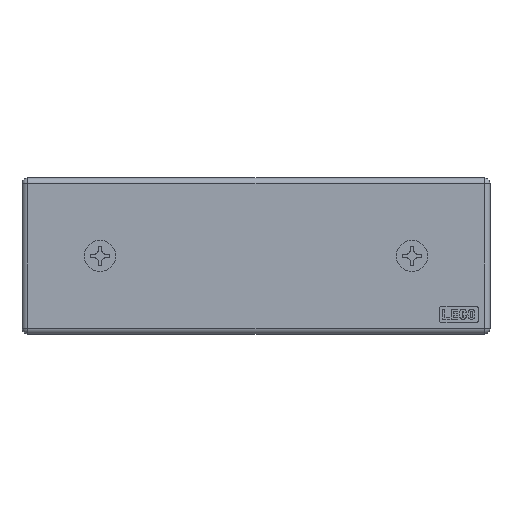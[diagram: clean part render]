
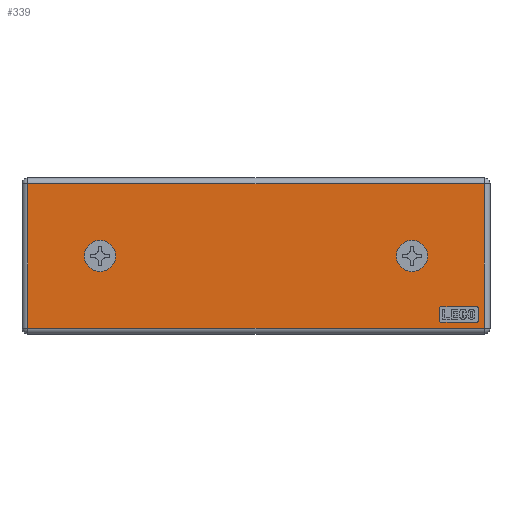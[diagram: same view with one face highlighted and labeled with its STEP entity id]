
A CAD part, top view. The second image highlights one B-rep face of the part: STEP entity #339.
In plain terms, the highlighted planar face has unit normal (0, 0, 1).
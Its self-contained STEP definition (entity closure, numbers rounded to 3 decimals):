
#339=ADVANCED_FACE('',(#925,#926,#927,#928),#929,.F.);
#925=FACE_BOUND('',#1826,.T.);
#926=FACE_BOUND('',#1827,.T.);
#927=FACE_BOUND('',#1828,.T.);
#928=FACE_OUTER_BOUND('',#1829,.T.);
#929=PLANE('',#1830);
#1826=EDGE_LOOP('',(#4500,#4501,#4502,#4503,#4504,#4505,#4506,#4507));
#1827=EDGE_LOOP('',(#4508));
#1828=EDGE_LOOP('',(#4509));
#1829=EDGE_LOOP('',(#4510,#4511,#4512,#4513));
#1830=AXIS2_PLACEMENT_3D('',#4514,#4515,#4516);
#4500=ORIENTED_EDGE('',*,*,#6816,.F.);
#4501=ORIENTED_EDGE('',*,*,#6817,.F.);
#4502=ORIENTED_EDGE('',*,*,#6740,.F.);
#4503=ORIENTED_EDGE('',*,*,#6735,.F.);
#4504=ORIENTED_EDGE('',*,*,#6818,.F.);
#4505=ORIENTED_EDGE('',*,*,#6744,.F.);
#4506=ORIENTED_EDGE('',*,*,#6819,.F.);
#4507=ORIENTED_EDGE('',*,*,#6820,.F.);
#4508=ORIENTED_EDGE('',*,*,#6821,.T.);
#4509=ORIENTED_EDGE('',*,*,#6822,.T.);
#4510=ORIENTED_EDGE('',*,*,#6823,.F.);
#4511=ORIENTED_EDGE('',*,*,#6824,.T.);
#4512=ORIENTED_EDGE('',*,*,#6825,.T.);
#4513=ORIENTED_EDGE('',*,*,#6826,.F.);
#4514=CARTESIAN_POINT('',(-4.899,1.5,3.));
#4515=DIRECTION('',(0.0,0.0,-1.0));
#4516=DIRECTION('',(-1.0,0.0,0.0));
#6735=EDGE_CURVE('',#7726,#7727,#7728,.T.);
#6740=EDGE_CURVE('',#7727,#7735,#7736,.T.);
#6744=EDGE_CURVE('',#7741,#7742,#7743,.T.);
#6816=EDGE_CURVE('',#7867,#7868,#7869,.T.);
#6817=EDGE_CURVE('',#7735,#7867,#7870,.T.);
#6818=EDGE_CURVE('',#7742,#7726,#7871,.T.);
#6819=EDGE_CURVE('',#7872,#7741,#7873,.T.);
#6820=EDGE_CURVE('',#7868,#7872,#7874,.T.);
#6821=EDGE_CURVE('',#7875,#7875,#7876,.T.);
#6822=EDGE_CURVE('',#7877,#7877,#7878,.T.);
#6823=EDGE_CURVE('',#7879,#7880,#7881,.T.);
#6824=EDGE_CURVE('',#7879,#7882,#7883,.T.);
#6825=EDGE_CURVE('',#7882,#7884,#7885,.T.);
#6826=EDGE_CURVE('',#7880,#7884,#7886,.T.);
#7726=VERTEX_POINT('',#9131);
#7727=VERTEX_POINT('',#9132);
#7728=CIRCLE('',#9133,0.4);
#7735=VERTEX_POINT('',#9142);
#7736=LINE('',#9143,#9144);
#7741=VERTEX_POINT('',#9151);
#7742=VERTEX_POINT('',#9152);
#7743=CIRCLE('',#9153,0.4);
#7867=VERTEX_POINT('',#9462);
#7868=VERTEX_POINT('',#9463);
#7869=LINE('',#9464,#9465);
#7870=CIRCLE('',#9466,0.4);
#7871=LINE('',#9467,#9468);
#7872=VERTEX_POINT('',#9469);
#7873=LINE('',#9470,#9471);
#7874=CIRCLE('',#9472,0.4);
#7875=VERTEX_POINT('',#9473);
#7876=CIRCLE('',#9474,4.0);
#7877=VERTEX_POINT('',#9475);
#7878=CIRCLE('',#9476,4.0);
#7879=VERTEX_POINT('',#9477);
#7880=VERTEX_POINT('',#9478);
#7881=LINE('',#9479,#9480);
#7882=VERTEX_POINT('',#9481);
#7883=LINE('',#9482,#9483);
#7884=VERTEX_POINT('',#9484);
#7885=LINE('',#9485,#9486);
#7886=LINE('',#9487,#9488);
#9131=CARTESIAN_POINT('',(117.0,6.6,3.));
#9132=CARTESIAN_POINT('',(116.6,7.0,3.));
#9133=AXIS2_PLACEMENT_3D('',#11628,#11629,#11630);
#9142=CARTESIAN_POINT('',(107.4,7.0,3.));
#9143=CARTESIAN_POINT('',(116.6,7.0,3.));
#9144=VECTOR('',#11636,1.0);
#9151=CARTESIAN_POINT('',(116.6,3.,3.));
#9152=CARTESIAN_POINT('',(117.0,3.4,3.));
#9153=AXIS2_PLACEMENT_3D('',#11639,#11640,#11641);
#9462=CARTESIAN_POINT('',(107.0,6.6,3.));
#9463=CARTESIAN_POINT('',(107.0,3.4,3.));
#9464=CARTESIAN_POINT('',(107.0,6.6,3.));
#9465=VECTOR('',#11728,1.0);
#9466=AXIS2_PLACEMENT_3D('',#11729,#11730,#11731);
#9467=CARTESIAN_POINT('',(117.0,3.4,3.));
#9468=VECTOR('',#11732,1.0);
#9469=CARTESIAN_POINT('',(107.4,3.,3.));
#9470=CARTESIAN_POINT('',(107.4,3.,3.));
#9471=VECTOR('',#11733,1.0);
#9472=AXIS2_PLACEMENT_3D('',#11734,#11735,#11736);
#9473=CARTESIAN_POINT('',(104.0,20.,3.));
#9474=AXIS2_PLACEMENT_3D('',#11737,#11738,#11739);
#9475=CARTESIAN_POINT('',(24.,20.,3.));
#9476=AXIS2_PLACEMENT_3D('',#11740,#11741,#11742);
#9477=CARTESIAN_POINT('',(1.5,38.5,3.));
#9478=CARTESIAN_POINT('',(118.5,38.5,3.));
#9479=CARTESIAN_POINT('',(-4.899,38.5,3.));
#9480=VECTOR('',#11743,1.0);
#9481=CARTESIAN_POINT('',(1.5,1.5,3.));
#9482=CARTESIAN_POINT('',(1.5,43.579,3.));
#9483=VECTOR('',#11744,1.0);
#9484=CARTESIAN_POINT('',(118.5,1.5,3.));
#9485=CARTESIAN_POINT('',(-4.899,1.5,3.));
#9486=VECTOR('',#11745,1.0);
#9487=CARTESIAN_POINT('',(118.5,43.579,3.));
#9488=VECTOR('',#11746,1.0);
#11628=CARTESIAN_POINT('',(116.6,6.6,3.));
#11629=DIRECTION('',(0.0,0.0,1.0));
#11630=DIRECTION('',(1.0,0.0,0.0));
#11636=DIRECTION('',(-1.0,0.0,0.0));
#11639=CARTESIAN_POINT('',(116.6,3.4,3.));
#11640=DIRECTION('',(0.0,0.0,1.0));
#11641=DIRECTION('',(1.0,0.0,0.0));
#11728=DIRECTION('',(0.0,-1.0,0.0));
#11729=CARTESIAN_POINT('',(107.4,6.6,3.));
#11730=DIRECTION('',(0.0,0.0,1.0));
#11731=DIRECTION('',(1.0,0.0,0.0));
#11732=DIRECTION('',(0.,1.0,0.0));
#11733=DIRECTION('',(1.0,0.0,0.0));
#11734=CARTESIAN_POINT('',(107.4,3.4,3.));
#11735=DIRECTION('',(0.0,0.0,1.0));
#11736=DIRECTION('',(1.0,0.0,0.0));
#11737=CARTESIAN_POINT('',(100.0,20.,3.));
#11738=DIRECTION('',(0.0,0.0,-1.0));
#11739=DIRECTION('',(1.0,0.0,0.0));
#11740=CARTESIAN_POINT('',(20.,20.,3.));
#11741=DIRECTION('',(0.0,0.0,-1.0));
#11742=DIRECTION('',(1.0,0.0,0.0));
#11743=DIRECTION('',(1.0,0.0,0.0));
#11744=DIRECTION('',(0.0,-1.0,0.0));
#11745=DIRECTION('',(1.0,0.0,0.0));
#11746=DIRECTION('',(0.0,-1.0,0.0));
